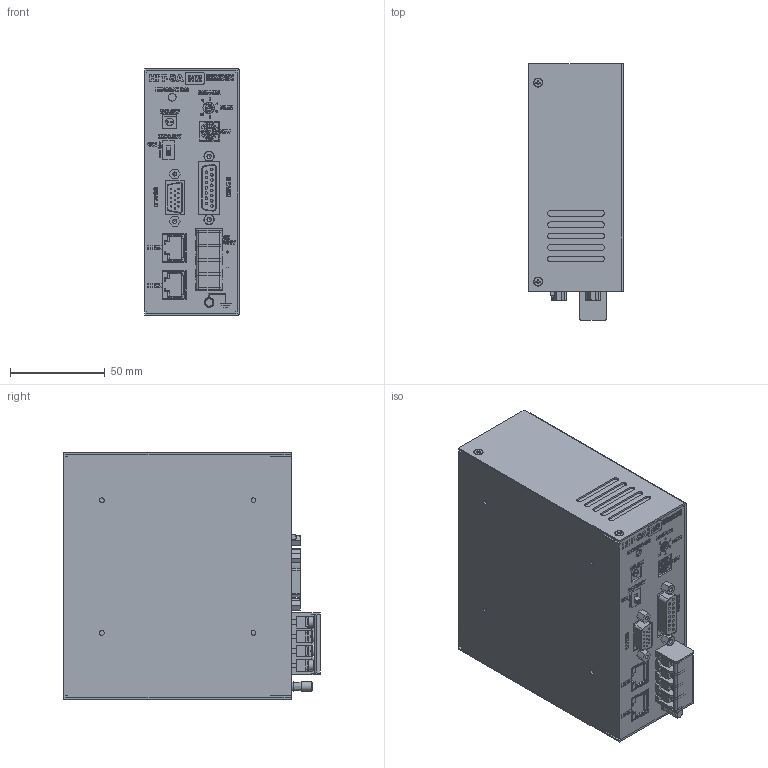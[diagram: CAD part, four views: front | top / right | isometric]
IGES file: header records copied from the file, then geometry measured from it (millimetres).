
Global section: file name: HIT-SA-M2_IGS; native system: Autodesk Inventor 2021; preprocessor: unknown; author: s.hamada; date: 20220614.115321; units: millimetre
Bounding box: 50 x 135.2 x 130 mm (x, y, z)
Volume: 783583.2 mm3; surface area: 64703.8 mm2
Topology: 1 solids, 1 shells, 2482 faces, 6832 edges, 4577 vertices
Faces by surface type: bspline 2482
